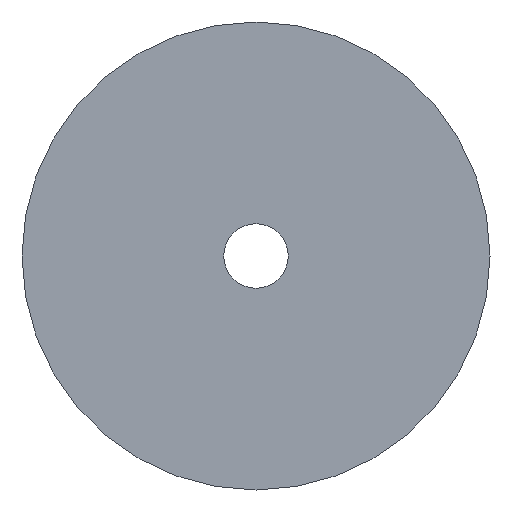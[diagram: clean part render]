
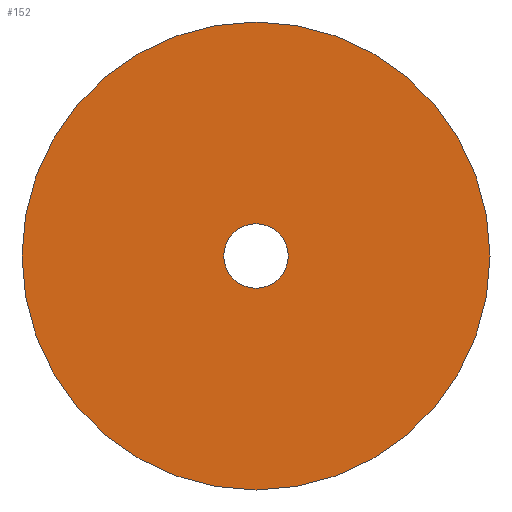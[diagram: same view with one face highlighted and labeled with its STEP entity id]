
A CAD part, front view. The second image highlights one B-rep face of the part: STEP entity #152.
In plain terms, the highlighted planar face has unit normal (0, -1, 0).
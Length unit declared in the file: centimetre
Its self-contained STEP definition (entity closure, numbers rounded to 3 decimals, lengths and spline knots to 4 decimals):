
#116=VERTEX_POINT('',#372);
#117=VERTEX_POINT('',#374);
#120=CIRCLE('',#267,2.9);
#121=CIRCLE('',#268,0.4);
#124=EDGE_CURVE('',#116,#116,#120,.T.);
#125=EDGE_CURVE('',#117,#117,#121,.T.);
#128=ORIENTED_EDGE('',*,*,#124,.F.);
#129=ORIENTED_EDGE('',*,*,#125,.T.);
#136=EDGE_LOOP('',(#128));
#137=EDGE_LOOP('',(#129));
#144=FACE_BOUND('',#136,.T.);
#145=FACE_BOUND('',#137,.T.);
#152=ADVANCED_FACE('',(#144,#145),#292,.T.);
#266=AXIS2_PLACEMENT_3D('',#370,#406,$);
#267=AXIS2_PLACEMENT_3D('',#371,#407,#408);
#268=AXIS2_PLACEMENT_3D('',#373,#409,#410);
#292=PLANE('',#266);
#370=CARTESIAN_POINT('',(1.65,-1.8154,0.));
#371=CARTESIAN_POINT('',(0.,-1.8154,0.));
#372=CARTESIAN_POINT('',(2.9,-1.8154,0.));
#373=CARTESIAN_POINT('',(0.,-1.8154,0.));
#374=CARTESIAN_POINT('',(0.4,-1.8154,0.));
#406=DIRECTION('',(0.,-1.,0.));
#407=DIRECTION('',(0.,1.,0.));
#408=DIRECTION('',(2.9,0.,0.));
#409=DIRECTION('',(0.,1.,0.));
#410=DIRECTION('',(0.4,0.,0.));
